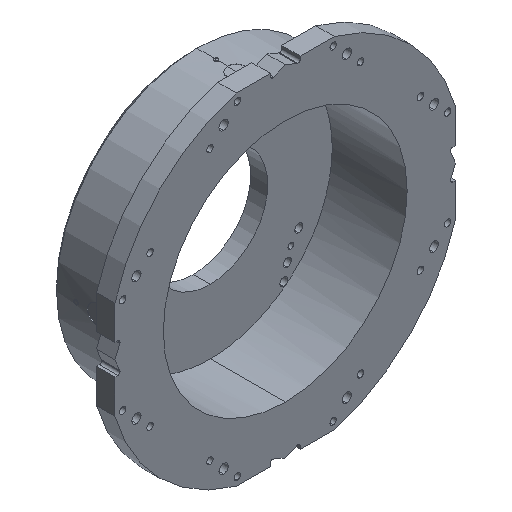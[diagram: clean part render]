
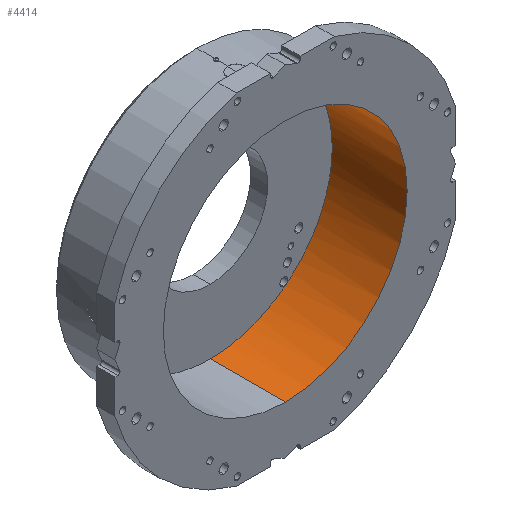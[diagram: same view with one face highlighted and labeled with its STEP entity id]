
A CAD part, isometric view. The second image highlights one B-rep face of the part: STEP entity #4414.
In plain terms, the highlighted cylindrical face has radius 265 mm (diameter 530 mm), a partial arc.
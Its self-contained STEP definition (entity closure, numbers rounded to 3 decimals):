
#81 = EDGE_CURVE ( 'NONE', #6162, #3416, #6058, .T. ) ;
#1035 = EDGE_CURVE ( 'NONE', #8936, #6286, #9063, .T. ) ;
#1123 = DIRECTION ( 'NONE',  ( 0., 0., 1. ) ) ;
#1222 = EDGE_LOOP ( 'NONE', ( #4590, #3533, #4735, #4950 ) ) ;
#1332 = CARTESIAN_POINT ( 'NONE',  ( 0., 0., -265. ) ) ;
#1343 = EDGE_CURVE ( 'NONE', #6286, #3416, #4384, .T. ) ;
#1710 = CARTESIAN_POINT ( 'NONE',  ( 0., 0., -265. ) ) ;
#2051 = CIRCLE ( 'NONE', #5385, 265. ) ;
#2491 = CARTESIAN_POINT ( 'NONE',  ( 0., 0., 265. ) ) ;
#2910 = DIRECTION ( 'NONE',  ( 0., 0., 1. ) ) ;
#2932 = AXIS2_PLACEMENT_3D ( 'NONE', #3476, #5677, #2910 ) ;
#2955 = DIRECTION ( 'NONE',  ( 0., 1., 0. ) ) ;
#3169 = CARTESIAN_POINT ( 'NONE',  ( 0., 163., 0. ) ) ;
#3248 = CARTESIAN_POINT ( 'NONE',  ( 0., 163., -265. ) ) ;
#3416 = VERTEX_POINT ( 'NONE', #3248 ) ;
#3476 = CARTESIAN_POINT ( 'NONE',  ( 0., 0., 0. ) ) ;
#3533 = ORIENTED_EDGE ( 'NONE', *, *, #9026, .F. ) ;
#3750 = VECTOR ( 'NONE', #2955, 1000. ) ;
#4331 = CYLINDRICAL_SURFACE ( 'NONE', #2932, 265. ) ;
#4384 = CIRCLE ( 'NONE', #8817, 265. ) ;
#4414 = ADVANCED_FACE ( 'NONE', ( #7153 ), #4331, .F. ) ;
#4590 = ORIENTED_EDGE ( 'NONE', *, *, #81, .F. ) ;
#4729 = DIRECTION ( 'NONE',  ( 0., 1., 0. ) ) ;
#4735 = ORIENTED_EDGE ( 'NONE', *, *, #1035, .T. ) ;
#4950 = ORIENTED_EDGE ( 'NONE', *, *, #1343, .T. ) ;
#5385 = AXIS2_PLACEMENT_3D ( 'NONE', #7474, #8972, #8229 ) ;
#5677 = DIRECTION ( 'NONE',  ( 0., 1., 0. ) ) ;
#6058 = LINE ( 'NONE', #1710, #3750 ) ;
#6162 = VERTEX_POINT ( 'NONE', #1332 ) ;
#6286 = VERTEX_POINT ( 'NONE', #6691 ) ;
#6691 = CARTESIAN_POINT ( 'NONE',  ( 0., 163., 265. ) ) ;
#7094 = CARTESIAN_POINT ( 'NONE',  ( 0., 0., 265. ) ) ;
#7153 = FACE_OUTER_BOUND ( 'NONE', #1222, .T. ) ;
#7474 = CARTESIAN_POINT ( 'NONE',  ( 0., 0., 0. ) ) ;
#8229 = DIRECTION ( 'NONE',  ( 0., 0., 1. ) ) ;
#8330 = VECTOR ( 'NONE', #8712, 1000. ) ;
#8712 = DIRECTION ( 'NONE',  ( 0., 1., 0. ) ) ;
#8817 = AXIS2_PLACEMENT_3D ( 'NONE', #3169, #4729, #1123 ) ;
#8936 = VERTEX_POINT ( 'NONE', #2491 ) ;
#8972 = DIRECTION ( 'NONE',  ( 0., 1., 0. ) ) ;
#9026 = EDGE_CURVE ( 'NONE', #8936, #6162, #2051, .T. ) ;
#9063 = LINE ( 'NONE', #7094, #8330 ) ;
